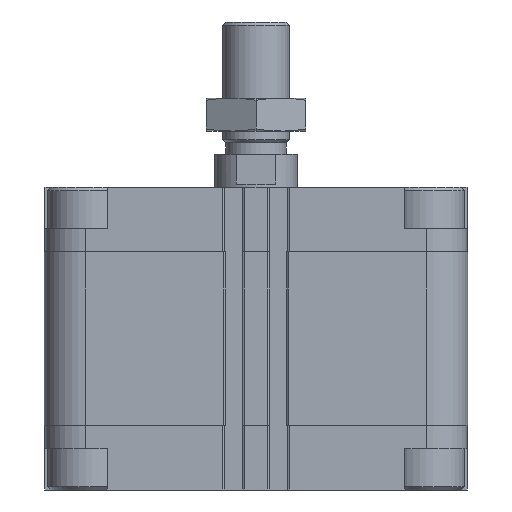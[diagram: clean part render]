
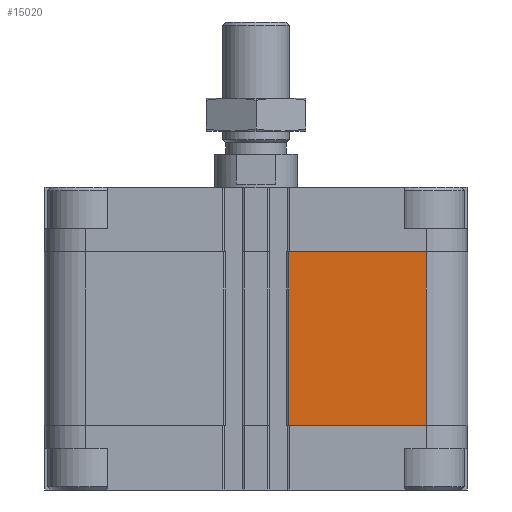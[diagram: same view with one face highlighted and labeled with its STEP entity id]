
A CAD part, front view. The second image highlights one B-rep face of the part: STEP entity #15020.
In plain terms, the highlighted planar face has unit normal (0, -1, 0).
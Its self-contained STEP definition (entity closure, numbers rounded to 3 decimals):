
#82 = CARTESIAN_POINT ( 'NONE',  ( 9.95, -64., -72. ) ) ;
#488 = EDGE_CURVE ( 'NONE', #16697, #21712, #16552, .T. ) ;
#1298 = LINE ( 'NONE', #21318, #7547 ) ;
#2078 = EDGE_CURVE ( 'NONE', #16697, #5833, #8521, .T. ) ;
#2141 = DIRECTION ( 'NONE',  ( 0., -1., 0. ) ) ;
#2259 = VECTOR ( 'NONE', #7467, 1000. ) ;
#2578 = CARTESIAN_POINT ( 'NONE',  ( 51.5, -64., -19.5 ) ) ;
#2579 = EDGE_CURVE ( 'NONE', #5833, #7610, #9012, .T. ) ;
#3473 = PLANE ( 'NONE',  #19160 ) ;
#3789 = FACE_OUTER_BOUND ( 'NONE', #10228, .T. ) ;
#5642 = ORIENTED_EDGE ( 'NONE', *, *, #2579, .T. ) ;
#5833 = VERTEX_POINT ( 'NONE', #15272 ) ;
#5929 = CARTESIAN_POINT ( 'NONE',  ( 51.5, -64., -72. ) ) ;
#5996 = DIRECTION ( 'NONE',  ( 0., 0., 1. ) ) ;
#6430 = CARTESIAN_POINT ( 'NONE',  ( 9.95, -64., -72. ) ) ;
#7467 = DIRECTION ( 'NONE',  ( 0., 0., 1. ) ) ;
#7547 = VECTOR ( 'NONE', #21754, 1000. ) ;
#7610 = VERTEX_POINT ( 'NONE', #2578 ) ;
#8322 = ORIENTED_EDGE ( 'NONE', *, *, #2078, .T. ) ;
#8521 = LINE ( 'NONE', #15127, #18419 ) ;
#9012 = LINE ( 'NONE', #5929, #2259 ) ;
#10228 = EDGE_LOOP ( 'NONE', ( #19774, #14124, #8322, #5642 ) ) ;
#11485 = VECTOR ( 'NONE', #5996, 1000. ) ;
#14124 = ORIENTED_EDGE ( 'NONE', *, *, #488, .F. ) ;
#14881 = EDGE_CURVE ( 'NONE', #21712, #7610, #1298, .T. ) ;
#15020 = ADVANCED_FACE ( 'NONE', ( #3789 ), #3473, .T. ) ;
#15127 = CARTESIAN_POINT ( 'NONE',  ( 9.95, -64., -72. ) ) ;
#15272 = CARTESIAN_POINT ( 'NONE',  ( 51.5, -64., -72. ) ) ;
#16448 = DIRECTION ( 'NONE',  ( 1., 0., 0. ) ) ;
#16552 = LINE ( 'NONE', #6430, #11485 ) ;
#16697 = VERTEX_POINT ( 'NONE', #82 ) ;
#16990 = CARTESIAN_POINT ( 'NONE',  ( 9.95, -64., -72. ) ) ;
#18222 = CARTESIAN_POINT ( 'NONE',  ( 9.95, -64., -19.5 ) ) ;
#18419 = VECTOR ( 'NONE', #16448, 1000. ) ;
#18657 = DIRECTION ( 'NONE',  ( -1., 0., 0. ) ) ;
#19160 = AXIS2_PLACEMENT_3D ( 'NONE', #16990, #2141, #18657 ) ;
#19774 = ORIENTED_EDGE ( 'NONE', *, *, #14881, .F. ) ;
#21318 = CARTESIAN_POINT ( 'NONE',  ( 9.95, -64., -19.5 ) ) ;
#21712 = VERTEX_POINT ( 'NONE', #18222 ) ;
#21754 = DIRECTION ( 'NONE',  ( 1., 0., 0. ) ) ;
